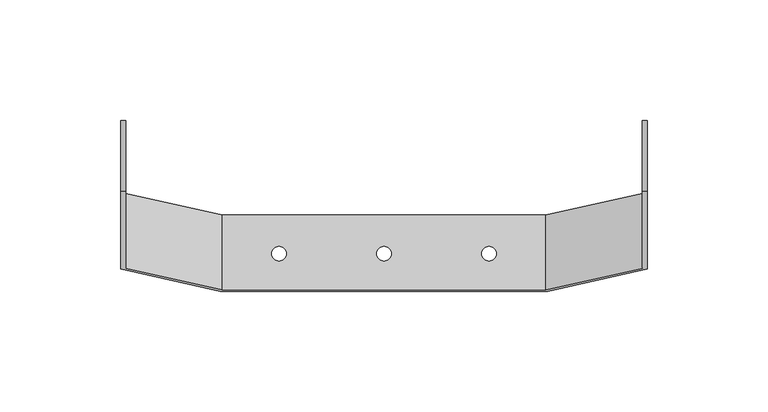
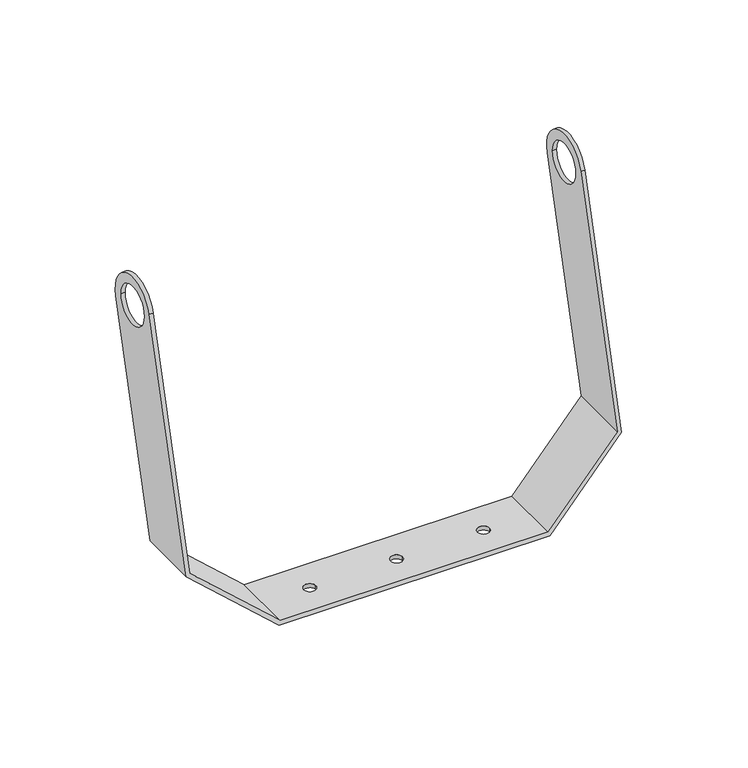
"""IFC4 building model written with IfcOpenShell, lengths in millimetres: light fixture geometry, L558 Proyector : L558 Proyector."""

from ifc_helpers import new_model, si_unit, frame, origin, origin_with_axes, place, context, project, spatial, polyline, circle_curve, source, transform, mapped, element, save
from ifc_brep_helpers import plane_surface, cylinder_surface, revolved_surface, advanced_brep


def light_fixture_f36965a0(model_context):
    return source(origin(), model_context, "Body", "AdvancedBrep", [
        advanced_brep(
        [(-67.7490191, -15.5291427, 0.0), (-67.7490191, 15.5291427, 0.0), (67.7490191, 15.5291427, 0.0), (67.7490191, -15.5291427, 0.0), (-3.0, 0.0, 0.0), (3.0, 0.0, 0.0), (-46.5, 0.0, 0.0), (-40.5, 0.0, 0.0), (46.5, 0.0, 0.0), (40.5, 0.0, 0.0), (109.0, 24.8038511, 34.6136828), (109.0, -6.2544343, 34.6136828), (109.0, 54.6824334, 146.1220702), (109.0, 25.7046586, 153.8866416), (109.0, 50.193546, 150.0043559), (109.0, 30.193546, 150.0043559), (107.0, 25.0537446, 35.5462981), (107.0, -6.0045408, 35.5462981), (107.0, 25.7046586, 153.8866416), (107.0, 54.6824334, 146.1220702), (107.0, 30.193546, 150.0043559), (107.0, 50.193546, 150.0043559), (67.0210787, 16.0650411, 2.0), (67.0210787, -14.9932443, 2.0), (-67.0210787, 16.0650411, 2.0), (-67.0210787, -14.9932443, 2.0), (3.0, 0.0, 2.0), (-3.0, 0.0, 2.0), (-40.5, 0.0, 2.0), (-46.5, 0.0, 2.0), (40.5, 0.0, 2.0), (46.5, 0.0, 2.0), (-107.0, -6.0045408, 35.5462981), (-107.0, 25.7046586, 153.8866416), (-109.0, 25.7046586, 153.8866416), (-109.0, -6.2544343, 34.6136828), (-109.0, 24.8038511, 34.6136828), (-109.0, 54.6824334, 146.1220702), (-107.0, 54.6824334, 146.1220702), (-107.0, 25.0537446, 35.5462981), (-109.0, 30.193546, 150.0043559), (-107.0, 30.193546, 150.0043559), (-107.0, 50.193546, 150.0043559), (-109.0, 50.193546, 150.0043559)],
        [
            (0, 1),
            (1, 2),
            (2, 3),
            (3, 0),
            (4, 5, circle_curve(origin_with_axes(), 3.0)),
            (5, 4, circle_curve(origin_with_axes(), 3.0)),
            (6, 7, circle_curve(frame((-43.5, 0.0, 0.0), z_axis=(0.0, 0.0, 1.0), x_axis=(1.0, 0.0, 0.0)), 3.0)),
            (7, 6, circle_curve(frame((-43.5, 0.0, 0.0), z_axis=(0.0, 0.0, 1.0), x_axis=(1.0, 0.0, 0.0)), 3.0)),
            (8, 9, circle_curve(frame((43.5, 0.0, 0.0), z_axis=(0.0, 0.0, 1.0), x_axis=(-1.0, 0.0, 0.0)), 3.0)),
            (9, 8, circle_curve(frame((43.5, 0.0, 0.0), z_axis=(0.0, 0.0, 1.0), x_axis=(-1.0, 0.0, 0.0)), 3.0)),
            (2, 10),
            (10, 11),
            (11, 3),
            (10, 12),
            (12, 13, circle_curve(frame((109.0, 40.193546, 150.0043559), z_axis=(1.0, 0.0, 0.0), x_axis=(0.0, 1.0, 0.0)), 15.0)),
            (13, 11),
            (14, 15, circle_curve(frame((109.0, 40.193546, 150.0043559), z_axis=(-1.0, 0.0, 0.0), x_axis=(0.0, 1.0, 0.0)), 10.0)),
            (15, 14, circle_curve(frame((109.0, 40.193546, 150.0043559), z_axis=(-1.0, 0.0, 0.0), x_axis=(0.0, 1.0, 0.0)), 10.0)),
            (16, 17),
            (17, 18),
            (18, 19, circle_curve(frame((107.0, 40.193546, 150.0043559), z_axis=(-1.0, 0.0, 0.0), x_axis=(0.0, 1.0, 0.0)), 15.0)),
            (19, 16),
            (20, 21, circle_curve(frame((107.0, 40.193546, 150.0043559), z_axis=(1.0, 0.0, 0.0), x_axis=(0.0, 1.0, 0.0)), 10.0)),
            (21, 20, circle_curve(frame((107.0, 40.193546, 150.0043559), z_axis=(1.0, 0.0, 0.0), x_axis=(0.0, 1.0, 0.0)), 10.0)),
            (16, 22),
            (22, 23),
            (23, 17),
            (22, 24),
            (24, 25),
            (25, 23),
            (26, 27, circle_curve(frame((0.0, 0.0, 2.0), z_axis=(0.0, 0.0, -1.0), x_axis=(1.0, 0.0, 0.0)), 3.0)),
            (27, 26, circle_curve(frame((0.0, 0.0, 2.0), z_axis=(0.0, 0.0, -1.0), x_axis=(1.0, 0.0, 0.0)), 3.0)),
            (28, 29, circle_curve(frame((-43.5, 0.0, 2.0), z_axis=(0.0, 0.0, -1.0), x_axis=(1.0, 0.0, 0.0)), 3.0)),
            (29, 28, circle_curve(frame((-43.5, 0.0, 2.0), z_axis=(0.0, 0.0, -1.0), x_axis=(1.0, 0.0, 0.0)), 3.0)),
            (30, 31, circle_curve(frame((43.5, 0.0, 2.0), z_axis=(0.0, 0.0, -1.0), x_axis=(-1.0, 0.0, 0.0)), 3.0)),
            (31, 30, circle_curve(frame((43.5, 0.0, 2.0), z_axis=(0.0, 0.0, -1.0), x_axis=(-1.0, 0.0, 0.0)), 3.0)),
            (13, 18),
            (25, 32),
            (32, 33),
            (33, 34),
            (34, 35),
            (35, 0),
            (19, 12),
            (1, 36),
            (36, 37),
            (37, 38),
            (38, 39),
            (39, 24),
            (26, 5),
            (4, 27),
            (28, 7),
            (6, 29),
            (30, 9),
            (8, 31),
            (37, 34, circle_curve(frame((-109.0, 40.193546, 150.0043559), z_axis=(1.0, 0.0, 0.0), x_axis=(0.0, 1.0, 0.0)), 15.0)),
            (33, 38, circle_curve(frame((-107.0, 40.193546, 150.0043559), z_axis=(-1.0, 0.0, 0.0), x_axis=(0.0, 1.0, 0.0)), 15.0)),
            (20, 15),
            (14, 21),
            (40, 41),
            (41, 42, circle_curve(frame((-107.0, 40.193546, 150.0043559), z_axis=(1.0, 0.0, 0.0), x_axis=(0.0, 1.0, 0.0)), 10.0)),
            (42, 43),
            (43, 40, circle_curve(frame((-109.0, 40.193546, 150.0043559), z_axis=(-1.0, 0.0, 0.0), x_axis=(0.0, 1.0, 0.0)), 10.0)),
            (40, 43, circle_curve(frame((-109.0, 40.193546, 150.0043559), z_axis=(-1.0, 0.0, 0.0), x_axis=(0.0, 1.0, 0.0)), 10.0)),
            (42, 41, circle_curve(frame((-107.0, 40.193546, 150.0043559), z_axis=(1.0, 0.0, 0.0), x_axis=(0.0, 1.0, 0.0)), 10.0)),
            (39, 32),
            (36, 35),
        ],
        [
            plane_surface(frame((-67.7490191, -20.0, 0.0), z_axis=(0.0, 0.0, -1.0), x_axis=(0.0, 1.0, 0.0))),
            plane_surface(frame((67.7490191, -20.0, 0.0), z_axis=(0.6427876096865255, 0.0, -0.7660444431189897), x_axis=(0.0, 1.0, 0.0))),
            plane_surface(frame((109.0, -20.0, 34.6136828), z_axis=(1.0, 0.0, 0.0), x_axis=(0.0, 1.0, 0.0))),
            plane_surface(frame((107.0, -20.0, 168.5672566), z_axis=(-1.0, 0.0, 0.0), x_axis=(0.0, 1.0, 0.0))),
            plane_surface(frame((107.0, -20.0, 35.5462981), z_axis=(-0.6427876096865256, 0.0, 0.7660444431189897), x_axis=(0.0, 1.0, 0.0))),
            plane_surface(frame((67.0210787, -20.0, 2.0), z_axis=(0.0, 0.0, 1.0), x_axis=(0.0, 1.0, 0.0))),
            plane_surface(frame((134.9886555, -15.5291427, 0.0), z_axis=(0.0, -0.965925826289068, 0.25881904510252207), x_axis=(-1.0, 0.0, 0.0))),
            plane_surface(frame((134.9886555, 54.6824334, 146.1220702), z_axis=(0.0, 0.9659258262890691, -0.2588190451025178), x_axis=(-1.0, 0.0, 0.0))),
            revolved_surface(polyline([(3.0, 0.0, 2.0), (3.0, 0.0, 0.0)]), (0.0, 0.0, 0.0), (0.0, 0.0, 1.0)),
            revolved_surface(polyline([(-40.5, 0.0, 2.0), (-40.5, 0.0, 0.0)]), (-43.5, 0.0, 0.0), (0.0, 0.0, 1.0)),
            revolved_surface(polyline([(40.5, 0.0, 2.0), (40.5, 0.0, 0.0)]), (43.5, 0.0, 0.0), (0.0, 0.0, 1.0)),
            cylinder_surface(frame((-110.0, 40.193546, 150.0043559), z_axis=(-1.0, 0.0, 0.0), x_axis=(0.0, 1.0, 0.0)), 15.0),
            revolved_surface(polyline([(109.0, 50.193546, 150.0043559), (107.0, 50.193546, 150.0043559)]), (0.0, 40.193546, 150.0043559), (1.0, 0.0, 0.0)),
            revolved_surface(polyline([(-107.0, 50.193546, 150.0043559), (-109.0, 50.193546, 150.0043559)]), (0.0, 40.193546, 150.0043559), (1.0, 0.0, 0.0)),
            plane_surface(frame((-67.0210787, -20.0, 2.0), z_axis=(0.6427876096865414, 0.0, 0.7660444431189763), x_axis=(0.0, 1.0, 0.0))),
            plane_surface(frame((-107.0, -20.0, 35.5462981), z_axis=(1.0, 0.0, 0.0), x_axis=(0.0, 1.0, 0.0))),
            plane_surface(frame((-109.0, -20.0, 168.5672566), z_axis=(-1.0, 0.0, 0.0), x_axis=(0.0, 1.0, 0.0))),
            plane_surface(frame((-109.0, -20.0, 34.6136828), z_axis=(-0.6427876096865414, 0.0, -0.7660444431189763), x_axis=(0.0, 1.0, 0.0))),
        ],
        [
            (0, [[1, 2, 3, 4], [5, 6], [7, 8], [9, 10]]),
            (1, [[-3, 11, 12, 13]]),
            (2, [[-12, 14, 15, 16], [17, 18]]),
            (3, [[19, 20, 21, 22], [23, 24]]),
            (4, [[-19, 25, 26, 27]]),
            (5, [[-26, 28, 29, 30], [31, 32], [33, 34], [35, 36]]),
            (6, [[37, -20, -27, -30, 38, 39, 40, 41, 42, -4, -13, -16]]),
            (7, [[43, -14, -11, -2, 44, 45, 46, 47, 48, -28, -25, -22]]),
            (8, [[49, -5, 50, -31]]),
            (8, [[-49, -32, -50, -6]]),
            (9, [[51, -7, 52, -33]]),
            (9, [[-51, -34, -52, -8]]),
            (10, [[53, -9, 54, -35]]),
            (10, [[-53, -36, -54, -10]]),
            (11, [[-43, -21, -37, -15]]),
            (11, [[-46, 55, -40, 56]]),
            (12, [[57, -17, 58, -23]]),
            (13, [[59, 60, 61, 62]]),
            (12, [[-57, -24, -58, -18]]),
            (13, [[-59, 63, -61, 64]]),
            (14, [[-29, -48, 65, -38]]),
            (15, [[-65, -47, -56, -39], [-60, -64]]),
            (16, [[66, -41, -55, -45], [-62, -63]]),
            (17, [[-1, -42, -66, -44]]),
        ],
    ),
    ])


if __name__ == "__main__":
    model = new_model("IFC4")
    model_context = context("Model", 3, world=origin())
    ifc_project = project(units=[si_unit("LENGTHUNIT", "METRE", prefix="MILLI")], contexts=[model_context])
    site = spatial("IfcSite", under=ifc_project)
    building = spatial("IfcBuilding", under=site)
    placement = place(None, origin())
    light_fixture_shape = light_fixture_f36965a0(model_context)
    element("IfcLightFixture", 1, ObjectType="L558 Proyector : L558 Proyector", at=placement, inside=building, context=model_context, shape_type="MappedRepresentation", body=[
        mapped(light_fixture_shape, transform((0.0, 0.0, 0.0), x_axis=(1.0, 0.0, 0.0), y_axis=(0.0, 1.0, 0.0), z_axis=(0.0, 0.0, 1.0))),
    ])
    save(model, "model.ifc")
